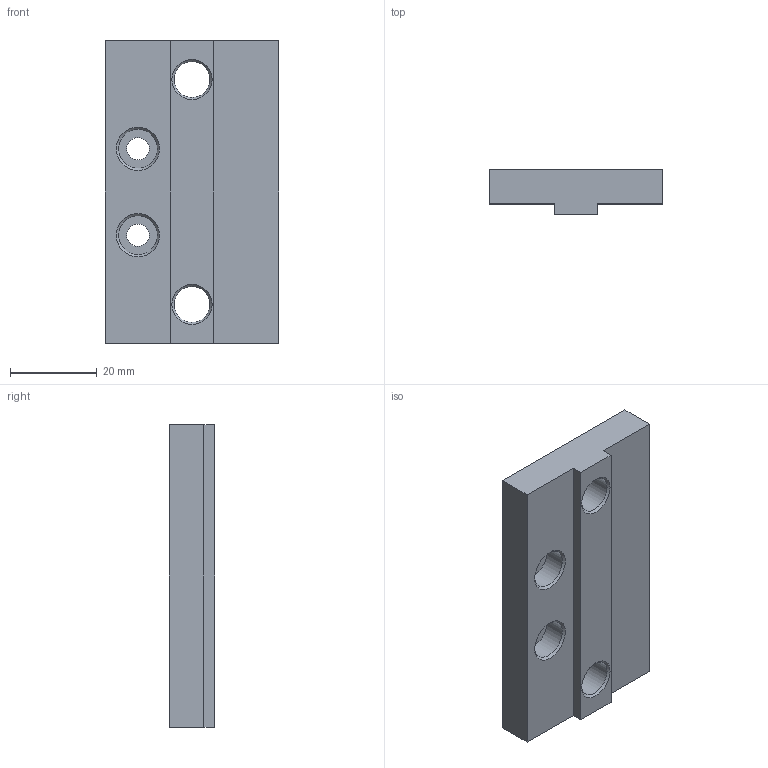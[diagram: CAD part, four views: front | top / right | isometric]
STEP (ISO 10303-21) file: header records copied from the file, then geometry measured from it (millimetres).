
FILE_DESCRIPTION(/* description */ (''),/* implementation_level */ '2;1');
FILE_NAME(/* name */ 'SYSTEM_SUPPORT_06.stp',/* time_stamp */ '2017-12-06T14:26:36+01:00',/* author */ (''),/* organization */ (''),/* preprocessor_version */ 'ST-DEVELOPER v16',/* originating_system */ 'SIEMENS PLM Software NX 10.0',/* authorisation */ '');
FILE_SCHEMA (('AP203_CONFIGURATION_CONTROLLED_3D_DESIGN_OF_MECHANICAL_PARTS_AND_ASSEMBLIES_MIM_LF { 1 0 10303 403 2 1 2}'));
Length unit declared in the file: millimetre
Products named in the file (1): turc1DB80072j4kx
Bounding box: 40 x 10.5 x 70 mm (x, y, z)
Volume: 22165.1 mm3; surface area: 8344.3 mm2
Topology: 1 solids, 1 shells, 26 faces, 62 edges, 40 vertices
Faces by surface type: plane 12, cone 8, cylinder 6
Full cylindrical faces by diameter (mm): 5.2 x2, 8.3 x2, 9 x2
Entity records: 756 total; most frequent: DIRECTION 118, CARTESIAN_POINT 107, ORIENTED_EDGE 88, EDGE_LOOP 50, AXIS2_PLACEMENT_3D 47, EDGE_CURVE 44, FACE_BOUND 43, VERTEX_POINT 36
